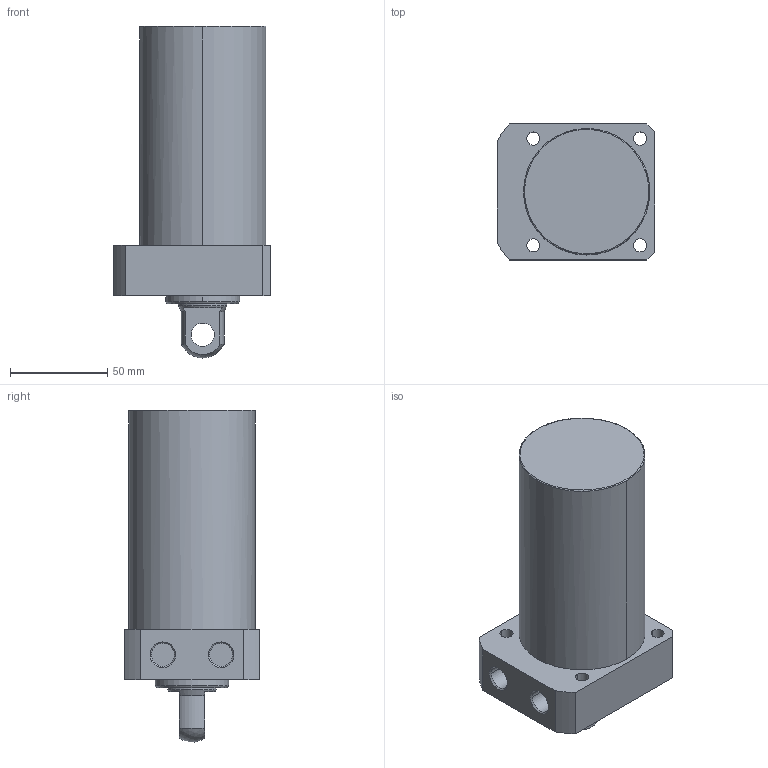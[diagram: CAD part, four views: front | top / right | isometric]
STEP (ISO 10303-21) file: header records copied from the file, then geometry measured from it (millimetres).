
FILE_DESCRIPTION((' '),'2;1');
FILE_NAME( 'TLLR-065CP-080.STEP.stp', '2025-10-24T16:35:02', (' '), ('--- Datakit www.datakit.com---'), ' Datakit CrossCadWare V2024.1 Dec 21 2023', 'Mastercam 2025', ' ');
FILE_SCHEMA(('AUTOMOTIVE_DESIGN { 1 0 10303 214 1 1 1 1 }'));
Length unit declared in the file: millimetre
Products named in the file (1): TLLR-065CP-080
Bounding box: 81 x 70 x 170.92 mm (x, y, z)
Volume: 522599.5 mm3; surface area: 47439 mm2
Topology: 1 solids, 1 shells, 57 faces, 164 edges, 116 vertices
Faces by surface type: cylinder 28, plane 18, cone 8, torus 2, sphere 1
Entity records: 2006 total; most frequent: DIRECTION 378, CARTESIAN_POINT 350, ORIENTED_EDGE 328, EDGE_CURVE 164, AXIS2_PLACEMENT_3D 160, VERTEX_POINT 116, CIRCLE 102, EDGE_LOOP 74
